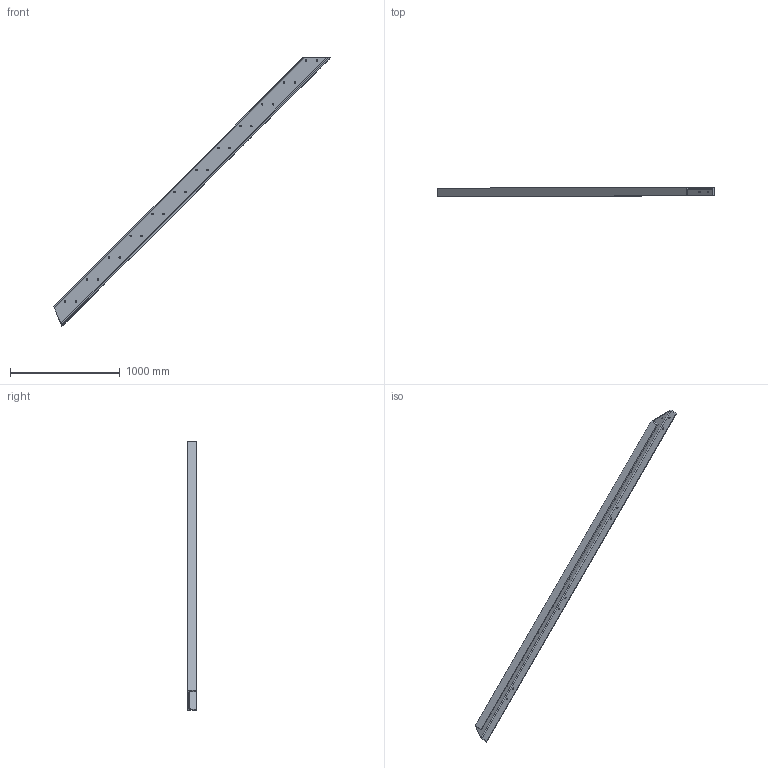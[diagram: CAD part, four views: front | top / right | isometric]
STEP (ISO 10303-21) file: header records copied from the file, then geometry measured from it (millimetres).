
FILE_DESCRIPTION (( 'STEP AP214' ), '1' );
FILE_NAME ('CCJ029-REP.021 - MONTANT ESCALIER INFERIEUR-RAS SYM.STEP', '2024-01-11T14:55:21', ( '' ), ( '' ), 'SwSTEP 2.0', 'SolidWorks 2021', '' );
FILE_SCHEMA (( 'AUTOMOTIVE_DESIGN' ));
Length unit declared in the file: millimetre
Products named in the file (1): CCJ029-REP.021 - MONTANT ESCALIER INFERIEUR-RAS SYM
Bounding box: 2524.56 x 75 x 2450 mm (x, y, z)
Volume: 8348266 mm3; surface area: 2137695.1 mm2
Topology: 1 solids, 1 shells, 107 faces, 303 edges, 202 vertices
Faces by surface type: cylinder 66, plane 26, bspline 15
Entity records: 4773 total; most frequent: CARTESIAN_POINT 1816, ORIENTED_EDGE 606, DIRECTION 583, EDGE_CURVE 303, AXIS2_PLACEMENT_3D 221, VERTEX_POINT 202, EDGE_LOOP 175, LINE 141
